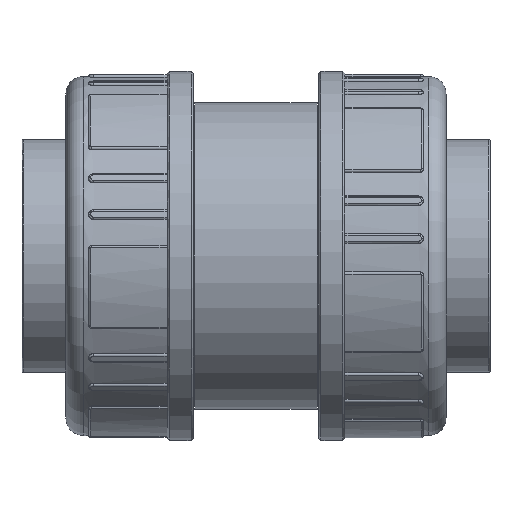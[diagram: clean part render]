
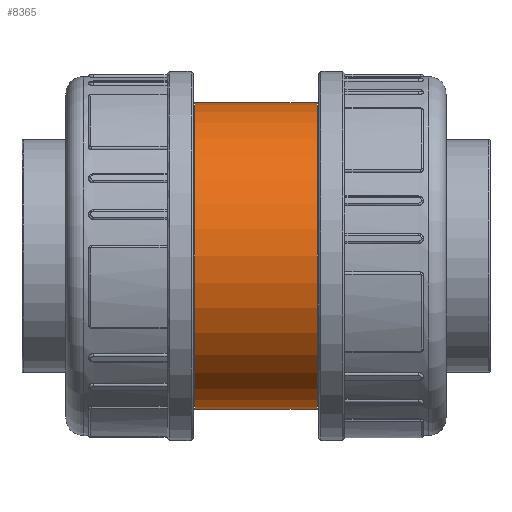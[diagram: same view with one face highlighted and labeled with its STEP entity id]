
A CAD part, left-side view. The second image highlights one B-rep face of the part: STEP entity #8365.
In plain terms, the highlighted cylindrical face has radius 69.75 mm (diameter 139.5 mm), a full revolution.
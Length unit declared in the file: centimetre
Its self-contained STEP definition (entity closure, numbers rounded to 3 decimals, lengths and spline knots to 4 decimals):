
#1342=B_SPLINE_CURVE_WITH_KNOTS('',3,(#40375,#40376,#40377,#40378,#40379,
#40380,#40381,#40382,#40383,#40384,#40385,#40386,#40387,#40388,#40389,#40390,
#40391,#40392,#40393,#40394,#40395,#40396,#40397,#40398,#40399,#40400,#40401,
#40402,#40403,#40404,#40405,#40406,#40407,#40408,#40409,#40410,#40411,#40412,
#40413,#40414,#40415,#40416,#40417,#40418,#40419,#40420,#40421,#40422,#40423,
#40424,#40425,#40426,#40427,#40428,#40429,#40430,#40431,#40432,#40433,#40434,
#40435,#40436,#40437,#40438,#40439,#40440),.UNSPECIFIED.,.T.,.F.,(4,2,2,
2,2,2,2,2,2,2,2,2,2,2,2,2,2,2,2,2,2,2,2,2,2,2,2,2,2,2,2,2,4),(0.,0.4185,
0.837,1.2555,1.674,2.0923,2.5106,
2.929,3.3473,3.7657,4.184,4.6023,
5.0207,5.4392,5.8577,6.2762,6.6946,
7.1131,7.5316,7.9501,8.3686,8.787,
9.2053,9.6236,10.042,10.4603,10.8786,
11.297,11.7153,12.1338,12.5523,12.9708,
13.3893),.UNSPECIFIED.);
#1558=CYLINDRICAL_SURFACE('',#9038,6.975);
#1666=FACE_BOUND('',#2487,.T.);
#1667=FACE_BOUND('',#2488,.T.);
#1975=FACE_OUTER_BOUND('',#2486,.T.);
#2486=EDGE_LOOP('',(#6436));
#2487=EDGE_LOOP('',(#6437));
#2488=EDGE_LOOP('',(#6438));
#2960=CIRCLE('',#9039,6.975);
#2961=CIRCLE('',#9040,6.975);
#3565=VERTEX_POINT('',#40372);
#3566=VERTEX_POINT('',#40374);
#3567=VERTEX_POINT('',#40441);
#4574=EDGE_CURVE('',#3565,#3565,#2960,.T.);
#4575=EDGE_CURVE('',#3566,#3566,#1342,.T.);
#4576=EDGE_CURVE('',#3567,#3567,#2961,.T.);
#6436=ORIENTED_EDGE('',*,*,#4574,.F.);
#6437=ORIENTED_EDGE('',*,*,#4575,.T.);
#6438=ORIENTED_EDGE('',*,*,#4576,.T.);
#8365=ADVANCED_FACE('',(#1975,#1666,#1667),#1558,.T.);
#9038=AXIS2_PLACEMENT_3D('',#40371,#10554,#10555);
#9039=AXIS2_PLACEMENT_3D('',#40373,#10556,#10557);
#9040=AXIS2_PLACEMENT_3D('',#40442,#10558,#10559);
#10554=DIRECTION('center_axis',(0.,-1.,0.));
#10555=DIRECTION('ref_axis',(-1.,0.,0.));
#10556=DIRECTION('center_axis',(0.,-1.,0.));
#10557=DIRECTION('ref_axis',(1.,0.,0.));
#10558=DIRECTION('center_axis',(0.,-1.,0.));
#10559=DIRECTION('ref_axis',(1.,0.,0.));
#40371=CARTESIAN_POINT('Origin',(0.,0.005,
0.));
#40372=CARTESIAN_POINT('',(-6.975,-2.78,0.));
#40373=CARTESIAN_POINT('Origin',(0.,-2.78,0.));
#40374=CARTESIAN_POINT('',(6.6173,0.,-2.205));
#40375=CARTESIAN_POINT('Ctrl Pts',(6.6173,0.,
-2.205));
#40376=CARTESIAN_POINT('Ctrl Pts',(6.6173,-0.1395,
-2.205));
#40377=CARTESIAN_POINT('Ctrl Pts',(6.6218,-0.2834,
-2.1915));
#40378=CARTESIAN_POINT('Ctrl Pts',(6.6402,-0.5691,
-2.1353));
#40379=CARTESIAN_POINT('Ctrl Pts',(6.654,-0.7108,
-2.0925));
#40380=CARTESIAN_POINT('Ctrl Pts',(6.6884,-0.9821,-1.9797));
#40381=CARTESIAN_POINT('Ctrl Pts',(6.709,-1.1119,-1.9096));
#40382=CARTESIAN_POINT('Ctrl Pts',(6.7529,-1.3518,-1.748));
#40383=CARTESIAN_POINT('Ctrl Pts',(6.7762,-1.4618,-1.6565));
#40384=CARTESIAN_POINT('Ctrl Pts',(6.8208,-1.6565,-1.4618));
#40385=CARTESIAN_POINT('Ctrl Pts',(6.8438,-1.748,-1.3518));
#40386=CARTESIAN_POINT('Ctrl Pts',(6.8869,-1.9096,-1.112));
#40387=CARTESIAN_POINT('Ctrl Pts',(6.9069,-1.9796,-0.9821));
#40388=CARTESIAN_POINT('Ctrl Pts',(6.94,-2.0925,-0.7108));
#40389=CARTESIAN_POINT('Ctrl Pts',(6.9532,-2.1353,-0.569));
#40390=CARTESIAN_POINT('Ctrl Pts',(6.9707,-2.1916,-0.2834));
#40391=CARTESIAN_POINT('Ctrl Pts',(6.975,-2.205,-0.1394));
#40392=CARTESIAN_POINT('Ctrl Pts',(6.975,-2.205,0.1394));
#40393=CARTESIAN_POINT('Ctrl Pts',(6.9707,-2.1916,0.2834));
#40394=CARTESIAN_POINT('Ctrl Pts',(6.9532,-2.1353,0.569));
#40395=CARTESIAN_POINT('Ctrl Pts',(6.94,-2.0925,0.7108));
#40396=CARTESIAN_POINT('Ctrl Pts',(6.9069,-1.9796,0.9821));
#40397=CARTESIAN_POINT('Ctrl Pts',(6.8869,-1.9096,1.112));
#40398=CARTESIAN_POINT('Ctrl Pts',(6.8438,-1.748,1.3518));
#40399=CARTESIAN_POINT('Ctrl Pts',(6.8208,-1.6565,1.4618));
#40400=CARTESIAN_POINT('Ctrl Pts',(6.7762,-1.4618,1.6565));
#40401=CARTESIAN_POINT('Ctrl Pts',(6.7529,-1.3518,1.748));
#40402=CARTESIAN_POINT('Ctrl Pts',(6.709,-1.1119,1.9096));
#40403=CARTESIAN_POINT('Ctrl Pts',(6.6884,-0.9821,1.9797));
#40404=CARTESIAN_POINT('Ctrl Pts',(6.654,-0.7108,
2.0925));
#40405=CARTESIAN_POINT('Ctrl Pts',(6.6402,-0.5691,
2.1353));
#40406=CARTESIAN_POINT('Ctrl Pts',(6.6218,-0.2834,
2.1915));
#40407=CARTESIAN_POINT('Ctrl Pts',(6.6173,-0.1395,
2.205));
#40408=CARTESIAN_POINT('Ctrl Pts',(6.6173,0.1395,2.205));
#40409=CARTESIAN_POINT('Ctrl Pts',(6.6218,0.2834,2.1915));
#40410=CARTESIAN_POINT('Ctrl Pts',(6.6402,0.5691,2.1353));
#40411=CARTESIAN_POINT('Ctrl Pts',(6.654,0.7108,2.0925));
#40412=CARTESIAN_POINT('Ctrl Pts',(6.6884,0.9821,1.9797));
#40413=CARTESIAN_POINT('Ctrl Pts',(6.709,1.1119,1.9096));
#40414=CARTESIAN_POINT('Ctrl Pts',(6.7529,1.3518,1.748));
#40415=CARTESIAN_POINT('Ctrl Pts',(6.7762,1.4618,1.6565));
#40416=CARTESIAN_POINT('Ctrl Pts',(6.8208,1.6565,1.4618));
#40417=CARTESIAN_POINT('Ctrl Pts',(6.8438,1.748,1.3518));
#40418=CARTESIAN_POINT('Ctrl Pts',(6.8869,1.9096,1.112));
#40419=CARTESIAN_POINT('Ctrl Pts',(6.9069,1.9796,0.9821));
#40420=CARTESIAN_POINT('Ctrl Pts',(6.94,2.0925,0.7108));
#40421=CARTESIAN_POINT('Ctrl Pts',(6.9532,2.1353,0.569));
#40422=CARTESIAN_POINT('Ctrl Pts',(6.9707,2.1916,0.2834));
#40423=CARTESIAN_POINT('Ctrl Pts',(6.975,2.205,0.1394));
#40424=CARTESIAN_POINT('Ctrl Pts',(6.975,2.205,-0.1394));
#40425=CARTESIAN_POINT('Ctrl Pts',(6.9707,2.1916,-0.2834));
#40426=CARTESIAN_POINT('Ctrl Pts',(6.9532,2.1353,-0.569));
#40427=CARTESIAN_POINT('Ctrl Pts',(6.94,2.0925,-0.7108));
#40428=CARTESIAN_POINT('Ctrl Pts',(6.9069,1.9796,-0.9821));
#40429=CARTESIAN_POINT('Ctrl Pts',(6.8869,1.9096,-1.112));
#40430=CARTESIAN_POINT('Ctrl Pts',(6.8438,1.748,-1.3518));
#40431=CARTESIAN_POINT('Ctrl Pts',(6.8208,1.6565,-1.4618));
#40432=CARTESIAN_POINT('Ctrl Pts',(6.7762,1.4618,-1.6565));
#40433=CARTESIAN_POINT('Ctrl Pts',(6.7529,1.3518,-1.748));
#40434=CARTESIAN_POINT('Ctrl Pts',(6.709,1.1119,-1.9096));
#40435=CARTESIAN_POINT('Ctrl Pts',(6.6884,0.9821,-1.9797));
#40436=CARTESIAN_POINT('Ctrl Pts',(6.654,0.7108,-2.0925));
#40437=CARTESIAN_POINT('Ctrl Pts',(6.6402,0.5691,-2.1353));
#40438=CARTESIAN_POINT('Ctrl Pts',(6.6218,0.2834,-2.1915));
#40439=CARTESIAN_POINT('Ctrl Pts',(6.6173,0.1395,-2.205));
#40440=CARTESIAN_POINT('Ctrl Pts',(6.6173,0.,-2.205));
#40441=CARTESIAN_POINT('',(-6.975,2.79,0.));
#40442=CARTESIAN_POINT('Origin',(0.,2.79,0.));
